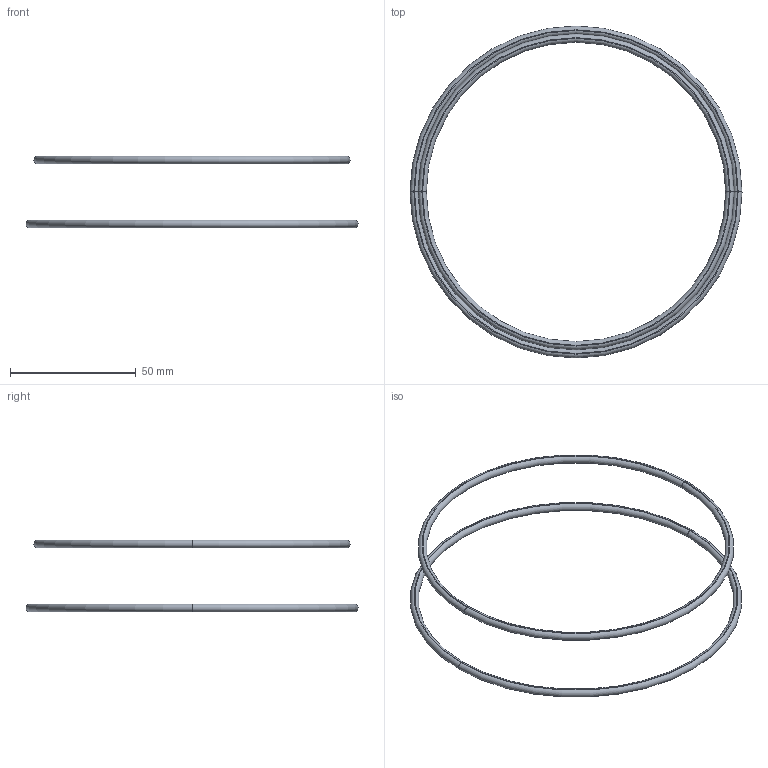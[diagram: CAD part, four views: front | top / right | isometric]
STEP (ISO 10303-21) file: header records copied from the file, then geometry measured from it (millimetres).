
FILE_DESCRIPTION((''),'2;1');
FILE_NAME('RMC-6015','2007-09-24T',('glafferty'),('Pleasant Precision, Inc. (419)675-0556'),'PRO/ENGINEER BY PARAMETRIC TECHNOLOGY CORPORATION, 2006080','PRO/ENGINEER BY PARAMETRIC TECHNOLOGY CORPORATION, 2006080','');
FILE_SCHEMA(('CONFIG_CONTROL_DESIGN'));
Length unit declared in the file: inch
Products named in the file (1): RMC-6015
Bounding box: 131.78 x 131.78 x 28.45 mm (x, y, z)
Volume: 6353.9 mm3; surface area: 7938.5 mm2
Topology: 2 solids, 2 shells, 12 faces, 24 edges, 16 vertices
Faces by surface type: torus 8, plane 4
Entity records: 378 total; most frequent: DIRECTION 72, CARTESIAN_POINT 52, ORIENTED_EDGE 48, AXIS2_PLACEMENT_3D 36, CIRCLE 24, EDGE_CURVE 24, VERTEX_POINT 16, EDGE_LOOP 16
